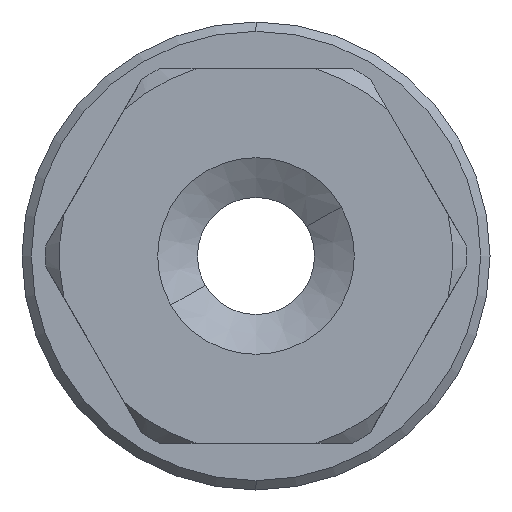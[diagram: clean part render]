
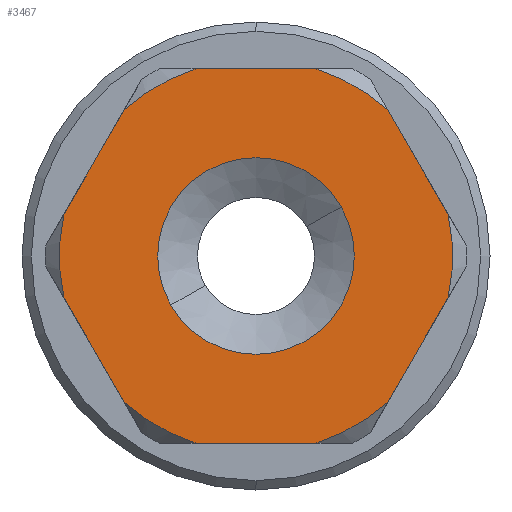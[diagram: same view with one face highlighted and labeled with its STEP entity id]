
A CAD part, front view. The second image highlights one B-rep face of the part: STEP entity #3467.
In plain terms, the highlighted planar face has unit normal (0, -1, 0).
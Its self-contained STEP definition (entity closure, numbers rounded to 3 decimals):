
#44 = DIRECTION ( 'NONE',  ( 0.5, 0., 0.866 ) ) ;
#132 = AXIS2_PLACEMENT_3D ( 'NONE', #6400, #551, #6493 ) ;
#142 = CARTESIAN_POINT ( 'NONE',  ( -2.754, -58.71, 48.5 ) ) ;
#220 = CARTESIAN_POINT ( 'NONE',  ( -5.853, -58.71, 43.45 ) ) ;
#253 = CARTESIAN_POINT ( 'NONE',  ( -1.211, -58.71, 47.609 ) ) ;
#286 = VERTEX_POINT ( 'NONE', #3943 ) ;
#323 = CIRCLE ( 'NONE', #1627, 4.2 ) ;
#327 = DIRECTION ( 'NONE',  ( 0.866, 0., 0.5 ) ) ;
#384 = CIRCLE ( 'NONE', #2236, 2.1 ) ;
#428 = PLANE ( 'NONE',  #6807 ) ;
#441 = CARTESIAN_POINT ( 'NONE',  ( -4.034, -58.71, 44.5 ) ) ;
#445 = VERTEX_POINT ( 'NONE', #7125 ) ;
#531 = VERTEX_POINT ( 'NONE', #3502 ) ;
#551 = DIRECTION ( 'NONE',  ( 0., -1., 0. ) ) ;
#612 = LINE ( 'NONE', #3363, #3569 ) ;
#644 = VERTEX_POINT ( 'NONE', #1429 ) ;
#691 = DIRECTION ( 'NONE',  ( 0., -1., 0. ) ) ;
#736 = ORIENTED_EDGE ( 'NONE', *, *, #3159, .T. ) ;
#906 = VERTEX_POINT ( 'NONE', #2778 ) ;
#909 = ORIENTED_EDGE ( 'NONE', *, *, #5945, .F. ) ;
#982 = DIRECTION ( 'NONE',  ( 0.866, 0., 0.5 ) ) ;
#1301 = DIRECTION ( 'NONE',  ( 0., -1., 0. ) ) ;
#1396 = EDGE_CURVE ( 'NONE', #3672, #3982, #4281, .T. ) ;
#1429 = CARTESIAN_POINT ( 'NONE',  ( -2.216, -58.71, 45.55 ) ) ;
#1627 = AXIS2_PLACEMENT_3D ( 'NONE', #441, #4313, #982 ) ;
#1647 = ORIENTED_EDGE ( 'NONE', *, *, #4716, .F. ) ;
#1670 = EDGE_CURVE ( 'NONE', #2787, #4745, #1753, .T. ) ;
#1711 = VERTEX_POINT ( 'NONE', #220 ) ;
#1720 = DIRECTION ( 'NONE',  ( 0., -1., 0. ) ) ;
#1753 = LINE ( 'NONE', #6240, #4685 ) ;
#1764 = AXIS2_PLACEMENT_3D ( 'NONE', #1959, #5795, #2525 ) ;
#1848 = VECTOR ( 'NONE', #3168, 1000. ) ;
#1910 = EDGE_CURVE ( 'NONE', #3672, #5877, #5531, .T. ) ;
#1959 = CARTESIAN_POINT ( 'NONE',  ( -4.034, -58.71, 44.5 ) ) ;
#2112 = EDGE_CURVE ( 'NONE', #4869, #4745, #3309, .T. ) ;
#2160 = ORIENTED_EDGE ( 'NONE', *, *, #4919, .T. ) ;
#2177 = CARTESIAN_POINT ( 'NONE',  ( -1.211, -58.71, 41.391 ) ) ;
#2236 = AXIS2_PLACEMENT_3D ( 'NONE', #4019, #691, #4551 ) ;
#2247 = CARTESIAN_POINT ( 'NONE',  ( -6.398, -58.71, 40.593 ) ) ;
#2450 = VECTOR ( 'NONE', #3979, 1000. ) ;
#2513 = ORIENTED_EDGE ( 'NONE', *, *, #2112, .T. ) ;
#2520 = VERTEX_POINT ( 'NONE', #4263 ) ;
#2525 = DIRECTION ( 'NONE',  ( 0.866, 0., 0.5 ) ) ;
#2618 = EDGE_CURVE ( 'NONE', #4869, #906, #5509, .T. ) ;
#2675 = CIRCLE ( 'NONE', #4528, 4.2 ) ;
#2685 = DIRECTION ( 'NONE',  ( 0.5, 0., -0.866 ) ) ;
#2778 = CARTESIAN_POINT ( 'NONE',  ( 0.07, -58.71, 45.391 ) ) ;
#2787 = VERTEX_POINT ( 'NONE', #6109 ) ;
#2802 = CIRCLE ( 'NONE', #6496, 4.2 ) ;
#2893 = VERTEX_POINT ( 'NONE', #2964 ) ;
#2964 = CARTESIAN_POINT ( 'NONE',  ( -8.139, -58.71, 43.609 ) ) ;
#2991 = ORIENTED_EDGE ( 'NONE', *, *, #2618, .F. ) ;
#3021 = ORIENTED_EDGE ( 'NONE', *, *, #1910, .F. ) ;
#3159 = EDGE_CURVE ( 'NONE', #531, #5877, #2675, .T. ) ;
#3168 = DIRECTION ( 'NONE',  ( -0.5, 0., -0.866 ) ) ;
#3196 = DIRECTION ( 'NONE',  ( 0., 1., 0. ) ) ;
#3309 = CIRCLE ( 'NONE', #132, 4.2 ) ;
#3363 = CARTESIAN_POINT ( 'NONE',  ( -8.599, -58.71, 44.593 ) ) ;
#3467 = ADVANCED_FACE ( 'NONE', ( #4070, #3880 ), #428, .F. ) ;
#3502 = CARTESIAN_POINT ( 'NONE',  ( -6.858, -58.71, 41.391 ) ) ;
#3569 = VECTOR ( 'NONE', #44, 1000. ) ;
#3596 = ORIENTED_EDGE ( 'NONE', *, *, #4058, .F. ) ;
#3646 = DIRECTION ( 'NONE',  ( 0., -1., 0. ) ) ;
#3672 = VERTEX_POINT ( 'NONE', #5517 ) ;
#3710 = AXIS2_PLACEMENT_3D ( 'NONE', #5012, #1720, #5565 ) ;
#3862 = EDGE_CURVE ( 'NONE', #445, #906, #323, .T. ) ;
#3880 = FACE_BOUND ( 'NONE', #6216, .T. ) ;
#3943 = CARTESIAN_POINT ( 'NONE',  ( -8.139, -58.71, 45.391 ) ) ;
#3979 = DIRECTION ( 'NONE',  ( -1., 0., 0. ) ) ;
#3982 = VERTEX_POINT ( 'NONE', #2177 ) ;
#4019 = CARTESIAN_POINT ( 'NONE',  ( -4.034, -58.71, 44.5 ) ) ;
#4057 = DIRECTION ( 'NONE',  ( 1., 0., 0. ) ) ;
#4058 = EDGE_CURVE ( 'NONE', #531, #2893, #4883, .T. ) ;
#4070 = FACE_OUTER_BOUND ( 'NONE', #6030, .T. ) ;
#4086 = VECTOR ( 'NONE', #2685, 1000. ) ;
#4194 = CARTESIAN_POINT ( 'NONE',  ( -1.833, -58.71, 40.5 ) ) ;
#4263 = CARTESIAN_POINT ( 'NONE',  ( -6.858, -58.71, 47.609 ) ) ;
#4267 = CIRCLE ( 'NONE', #3710, 2.1 ) ;
#4281 = CIRCLE ( 'NONE', #6153, 4.2 ) ;
#4313 = DIRECTION ( 'NONE',  ( 0., -1., 0. ) ) ;
#4528 = AXIS2_PLACEMENT_3D ( 'NONE', #4600, #1301, #5146 ) ;
#4551 = DIRECTION ( 'NONE',  ( -0.866, 0., -0.5 ) ) ;
#4600 = CARTESIAN_POINT ( 'NONE',  ( -4.034, -58.71, 44.5 ) ) ;
#4603 = LINE ( 'NONE', #5865, #1848 ) ;
#4685 = VECTOR ( 'NONE', #4057, 1000. ) ;
#4711 = CIRCLE ( 'NONE', #1764, 4.2 ) ;
#4716 = EDGE_CURVE ( 'NONE', #644, #1711, #384, .T. ) ;
#4745 = VERTEX_POINT ( 'NONE', #142 ) ;
#4869 = VERTEX_POINT ( 'NONE', #253 ) ;
#4883 = LINE ( 'NONE', #2247, #6172 ) ;
#4919 = EDGE_CURVE ( 'NONE', #286, #2893, #2802, .T. ) ;
#5012 = CARTESIAN_POINT ( 'NONE',  ( -4.034, -58.71, 44.5 ) ) ;
#5146 = DIRECTION ( 'NONE',  ( 0.866, 0., 0.5 ) ) ;
#5151 = ORIENTED_EDGE ( 'NONE', *, *, #6512, .F. ) ;
#5448 = EDGE_CURVE ( 'NONE', #445, #3982, #4603, .T. ) ;
#5509 = LINE ( 'NONE', #5958, #4086 ) ;
#5517 = CARTESIAN_POINT ( 'NONE',  ( -2.754, -58.71, 40.5 ) ) ;
#5531 = LINE ( 'NONE', #4194, #2450 ) ;
#5565 = DIRECTION ( 'NONE',  ( -0.866, 0., -0.5 ) ) ;
#5580 = CARTESIAN_POINT ( 'NONE',  ( -4.034, -58.71, 44.5 ) ) ;
#5602 = DIRECTION ( 'NONE',  ( 0., -1., 0. ) ) ;
#5626 = DIRECTION ( 'NONE',  ( 0.866, 0., 0.5 ) ) ;
#5795 = DIRECTION ( 'NONE',  ( 0., -1., 0. ) ) ;
#5865 = CARTESIAN_POINT ( 'NONE',  ( 0.531, -58.71, 44.407 ) ) ;
#5877 = VERTEX_POINT ( 'NONE', #7111 ) ;
#5945 = EDGE_CURVE ( 'NONE', #1711, #644, #4267, .T. ) ;
#5958 = CARTESIAN_POINT ( 'NONE',  ( -1.671, -58.71, 48.407 ) ) ;
#5965 = ORIENTED_EDGE ( 'NONE', *, *, #1670, .F. ) ;
#6030 = EDGE_LOOP ( 'NONE', ( #5151, #2160, #3596, #736, #3021, #6971, #7040, #6714, #2991, #2513, #5965, #6080 ) ) ;
#6080 = ORIENTED_EDGE ( 'NONE', *, *, #6814, .T. ) ;
#6087 = DIRECTION ( 'NONE',  ( -0.5, 0., 0.866 ) ) ;
#6109 = CARTESIAN_POINT ( 'NONE',  ( -5.315, -58.71, 48.5 ) ) ;
#6153 = AXIS2_PLACEMENT_3D ( 'NONE', #5580, #5602, #5626 ) ;
#6172 = VECTOR ( 'NONE', #6087, 1000. ) ;
#6216 = EDGE_LOOP ( 'NONE', ( #909, #1647 ) ) ;
#6240 = CARTESIAN_POINT ( 'NONE',  ( -6.236, -58.71, 48.5 ) ) ;
#6400 = CARTESIAN_POINT ( 'NONE',  ( -4.034, -58.71, 44.5 ) ) ;
#6469 = CARTESIAN_POINT ( 'NONE',  ( -4.034, -58.71, 44.5 ) ) ;
#6493 = DIRECTION ( 'NONE',  ( 0.866, 0., 0.5 ) ) ;
#6496 = AXIS2_PLACEMENT_3D ( 'NONE', #6899, #3646, #327 ) ;
#6512 = EDGE_CURVE ( 'NONE', #286, #2520, #612, .T. ) ;
#6714 = ORIENTED_EDGE ( 'NONE', *, *, #3862, .T. ) ;
#6807 = AXIS2_PLACEMENT_3D ( 'NONE', #6469, #3196, #7024 ) ;
#6814 = EDGE_CURVE ( 'NONE', #2787, #2520, #4711, .T. ) ;
#6899 = CARTESIAN_POINT ( 'NONE',  ( -4.034, -58.71, 44.5 ) ) ;
#6971 = ORIENTED_EDGE ( 'NONE', *, *, #1396, .T. ) ;
#7024 = DIRECTION ( 'NONE',  ( 0.866, 0., 0.5 ) ) ;
#7040 = ORIENTED_EDGE ( 'NONE', *, *, #5448, .F. ) ;
#7111 = CARTESIAN_POINT ( 'NONE',  ( -5.315, -58.71, 40.5 ) ) ;
#7125 = CARTESIAN_POINT ( 'NONE',  ( 0.07, -58.71, 43.609 ) ) ;
